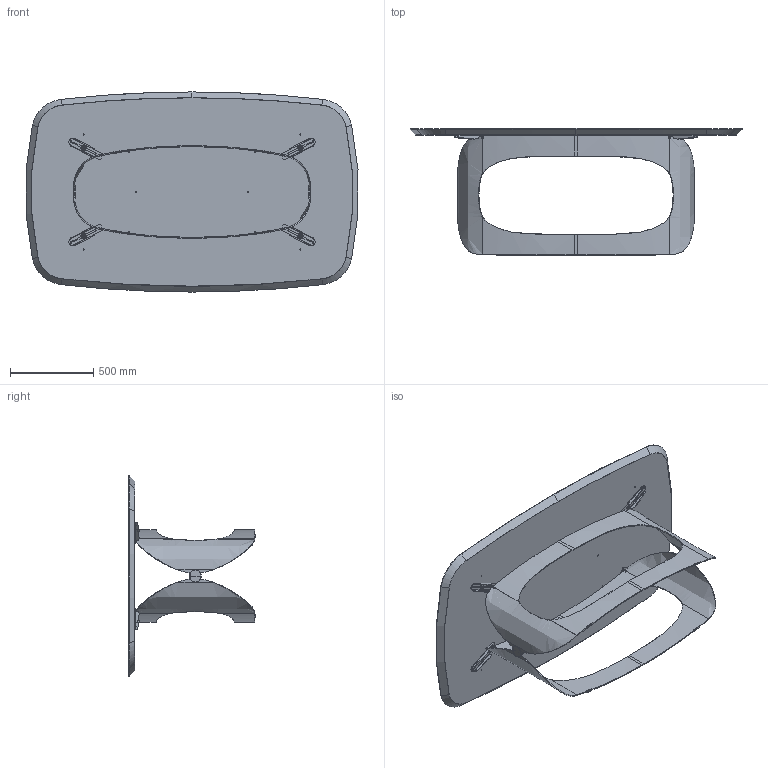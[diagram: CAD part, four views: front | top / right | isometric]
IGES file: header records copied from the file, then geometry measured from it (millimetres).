
Start section: SolidWorks IGES file using analytic representation for surfaces
Global section: file name: Y:\eforma\TECNICO\SOLIDWORKS\E-FORMA\1-TAVOLI\POLIFEMO\02 parts\PO41W.IGS; native system: SolidWorks 2022; preprocessor: SolidWorks 2022; author: eforma.tech; date: 240806.160449; units: millimetre
Bounding box: 1990.53 x 759.97 x 1200 mm (x, y, z)
Volume: 88901395.8 mm3; surface area: 7230823.6 mm2
Topology: 41 solids, 41 shells, 1365 faces, 3620 edges, 2229 vertices
Faces by surface type: revolution 833, plane 404, bspline 128
